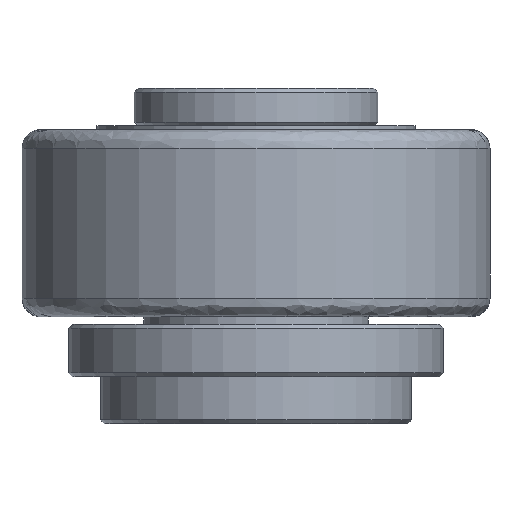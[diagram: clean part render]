
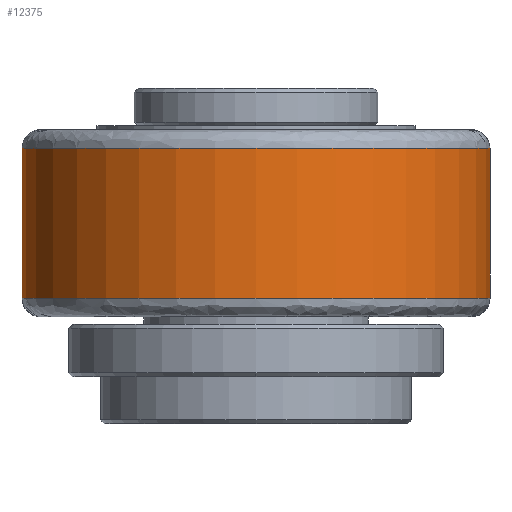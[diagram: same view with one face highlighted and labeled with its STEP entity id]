
A CAD part, front view. The second image highlights one B-rep face of the part: STEP entity #12375.
In plain terms, the highlighted cylindrical face has radius 62.5 mm (diameter 125 mm), a partial arc.
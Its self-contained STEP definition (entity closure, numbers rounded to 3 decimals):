
#318 = AXIS2_PLACEMENT_3D ( 'NONE', #10322, #39968, #23473 ) ;
#706 = ORIENTED_EDGE ( 'NONE', *, *, #20742, .F. ) ;
#1890 = DIRECTION ( 'NONE',  ( 1., 0., 0. ) ) ;
#4122 = EDGE_CURVE ( 'NONE', #38299, #37227, #18025, .T. ) ;
#5702 = CARTESIAN_POINT ( 'NONE',  ( 62.472, -0.086, -32.105 ) ) ;
#5734 = ORIENTED_EDGE ( 'NONE', *, *, #8047, .T. ) ;
#8047 = EDGE_CURVE ( 'NONE', #33974, #37227, #29701, .T. ) ;
#8604 = EDGE_CURVE ( 'NONE', #33974, #23470, #15236, .T. ) ;
#10052 = DIRECTION ( 'NONE',  ( 0., 0., 1. ) ) ;
#10322 = CARTESIAN_POINT ( 'NONE',  ( -0.028, -0.086, 7.895 ) ) ;
#12375 = ADVANCED_FACE ( 'NONE', ( #16592 ), #40911, .T. ) ;
#12659 = DIRECTION ( 'NONE',  ( 0., 0., 1. ) ) ;
#14075 = CARTESIAN_POINT ( 'NONE',  ( -62.528, -0.086, 7.895 ) ) ;
#14242 = AXIS2_PLACEMENT_3D ( 'NONE', #40941, #41367, #34410 ) ;
#15236 = CIRCLE ( 'NONE', #14242, 62.5 ) ;
#16592 = FACE_OUTER_BOUND ( 'NONE', #42767, .T. ) ;
#18025 = CIRCLE ( 'NONE', #318, 62.5 ) ;
#19320 = LINE ( 'NONE', #26233, #30657 ) ;
#20742 = EDGE_CURVE ( 'NONE', #23470, #38299, #19320, .T. ) ;
#21897 = CARTESIAN_POINT ( 'NONE',  ( -0.028, -0.086, -213.882 ) ) ;
#21957 = CARTESIAN_POINT ( 'NONE',  ( 62.472, -0.086, 7.895 ) ) ;
#23080 = CARTESIAN_POINT ( 'NONE',  ( -62.528, -0.086, -32.105 ) ) ;
#23469 = AXIS2_PLACEMENT_3D ( 'NONE', #21897, #42009, #1890 ) ;
#23470 = VERTEX_POINT ( 'NONE', #23080 ) ;
#23473 = DIRECTION ( 'NONE',  ( 1., 0., 0. ) ) ;
#26233 = CARTESIAN_POINT ( 'NONE',  ( -62.528, -0.086, -213.882 ) ) ;
#27562 = ORIENTED_EDGE ( 'NONE', *, *, #8604, .F. ) ;
#29701 = LINE ( 'NONE', #36634, #40578 ) ;
#30657 = VECTOR ( 'NONE', #12659, 1000. ) ;
#33974 = VERTEX_POINT ( 'NONE', #5702 ) ;
#34410 = DIRECTION ( 'NONE',  ( 1., 0., 0. ) ) ;
#35595 = ORIENTED_EDGE ( 'NONE', *, *, #4122, .F. ) ;
#36634 = CARTESIAN_POINT ( 'NONE',  ( 62.472, -0.086, -213.882 ) ) ;
#37227 = VERTEX_POINT ( 'NONE', #21957 ) ;
#38299 = VERTEX_POINT ( 'NONE', #14075 ) ;
#39968 = DIRECTION ( 'NONE',  ( 0., 0., 1. ) ) ;
#40578 = VECTOR ( 'NONE', #10052, 1000. ) ;
#40911 = CYLINDRICAL_SURFACE ( 'NONE', #23469, 62.5 ) ;
#40941 = CARTESIAN_POINT ( 'NONE',  ( -0.028, -0.086, -32.105 ) ) ;
#41367 = DIRECTION ( 'NONE',  ( 0., 0., -1. ) ) ;
#42009 = DIRECTION ( 'NONE',  ( 0., 0., 1. ) ) ;
#42767 = EDGE_LOOP ( 'NONE', ( #706, #27562, #5734, #35595 ) ) ;
